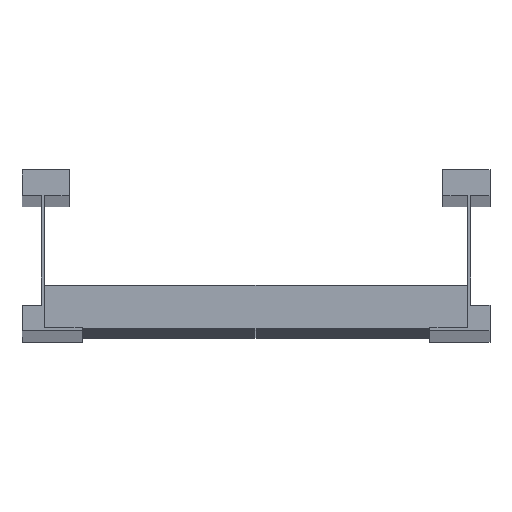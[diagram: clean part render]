
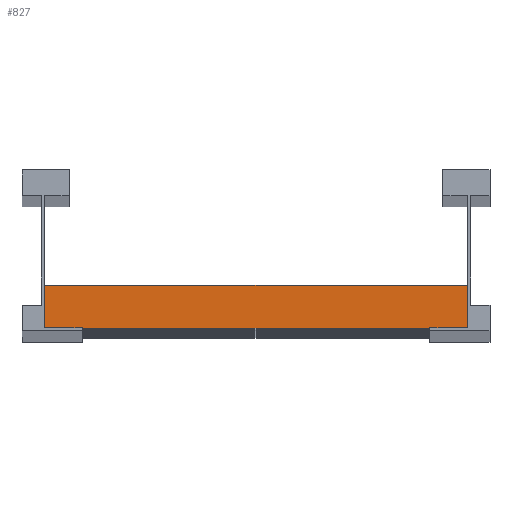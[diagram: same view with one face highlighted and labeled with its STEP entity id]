
A CAD part, top view. The second image highlights one B-rep face of the part: STEP entity #827.
In plain terms, the highlighted planar face has unit normal (0, 0, 1).
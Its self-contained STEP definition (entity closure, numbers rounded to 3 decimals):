
#162 = AXIS2_PLACEMENT_3D ( 'NONE', #3200, #1805, #1700 ) ;
#327 = CARTESIAN_POINT ( 'NONE',  ( 98.5, 20., 20.25 ) ) ;
#409 = EDGE_LOOP ( 'NONE', ( #2669, #5696, #860, #4844 ) ) ;
#422 = LINE ( 'NONE', #2244, #1288 ) ;
#460 = CARTESIAN_POINT ( 'NONE',  ( 98.5, 0., 20.25 ) ) ;
#827 = ADVANCED_FACE ( 'NONE', ( #5109 ), #1306, .F. ) ;
#860 = ORIENTED_EDGE ( 'NONE', *, *, #1634, .F. ) ;
#1150 = DIRECTION ( 'NONE',  ( -1., 0., 0. ) ) ;
#1288 = VECTOR ( 'NONE', #5600, 1000. ) ;
#1306 = PLANE ( 'NONE',  #162 ) ;
#1341 = EDGE_CURVE ( 'NONE', #3605, #3254, #5725, .T. ) ;
#1370 = CARTESIAN_POINT ( 'NONE',  ( -98.5, 0., 20.25 ) ) ;
#1529 = EDGE_CURVE ( 'NONE', #5639, #3254, #2306, .T. ) ;
#1634 = EDGE_CURVE ( 'NONE', #3449, #3605, #422, .T. ) ;
#1681 = VECTOR ( 'NONE', #5117, 1000. ) ;
#1700 = DIRECTION ( 'NONE',  ( 0., 1., 0. ) ) ;
#1745 = CARTESIAN_POINT ( 'NONE',  ( -98.5, 20., 20.25 ) ) ;
#1757 = CARTESIAN_POINT ( 'NONE',  ( -98.5, 20., 20.25 ) ) ;
#1805 = DIRECTION ( 'NONE',  ( 0., 0., -1. ) ) ;
#2244 = CARTESIAN_POINT ( 'NONE',  ( 98.5, 20., 20.25 ) ) ;
#2306 = LINE ( 'NONE', #1745, #1681 ) ;
#2669 = ORIENTED_EDGE ( 'NONE', *, *, #1529, .T. ) ;
#3194 = EDGE_CURVE ( 'NONE', #3449, #5639, #4619, .T. ) ;
#3200 = CARTESIAN_POINT ( 'NONE',  ( 98.5, 20., 20.25 ) ) ;
#3254 = VERTEX_POINT ( 'NONE', #1370 ) ;
#3449 = VERTEX_POINT ( 'NONE', #4896 ) ;
#3605 = VERTEX_POINT ( 'NONE', #3606 ) ;
#3606 = CARTESIAN_POINT ( 'NONE',  ( 98.5, 0., 20.25 ) ) ;
#3926 = DIRECTION ( 'NONE',  ( -1., 0., 0. ) ) ;
#4619 = LINE ( 'NONE', #327, #5881 ) ;
#4844 = ORIENTED_EDGE ( 'NONE', *, *, #3194, .T. ) ;
#4896 = CARTESIAN_POINT ( 'NONE',  ( 98.5, 20., 20.25 ) ) ;
#5109 = FACE_OUTER_BOUND ( 'NONE', #409, .T. ) ;
#5117 = DIRECTION ( 'NONE',  ( 0., -1., 0. ) ) ;
#5600 = DIRECTION ( 'NONE',  ( 0., -1., 0. ) ) ;
#5639 = VERTEX_POINT ( 'NONE', #1757 ) ;
#5696 = ORIENTED_EDGE ( 'NONE', *, *, #1341, .F. ) ;
#5725 = LINE ( 'NONE', #460, #6085 ) ;
#5881 = VECTOR ( 'NONE', #1150, 1000. ) ;
#6085 = VECTOR ( 'NONE', #3926, 1000. ) ;
